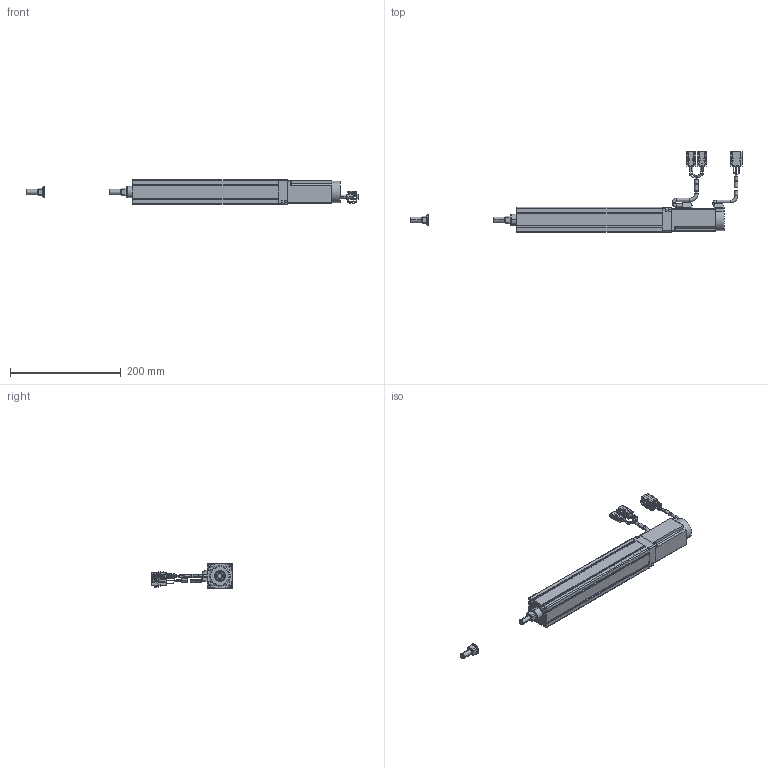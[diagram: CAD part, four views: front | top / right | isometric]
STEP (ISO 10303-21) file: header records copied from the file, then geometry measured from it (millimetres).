
FILE_DESCRIPTION((''),'2;1');
FILE_NAME('BET4D-ST-C_B-15_IGS_PRT','2017-06-18T',(' '),(''),'PRO/ENGINEER BY PARAMETRIC TECHNOLOGY CORPORATION, 2015030','PRO/ENGINEER BY PARAMETRIC TECHNOLOGY CORPORATION, 2015030','');
FILE_SCHEMA(('CONFIG_CONTROL_DESIGN'));
Length unit declared in the file: millimetre
Products named in the file (1): BET4D-ST-C_B-15_IGS_PRT
Bounding box: 599 x 145.7 x 45 mm (x, y, z)
Volume: 553117.2 mm3; surface area: 176037.6 mm2
Topology: 6 solids, 30 shells, 942 faces, 2479 edges, 1603 vertices
Faces by surface type: plane 618, cylinder 234, torus 68, cone 18, sphere 4
Entity records: 29264 total; most frequent: CARTESIAN_POINT 5472, DIRECTION 4921, ORIENTED_EDGE 4890, EDGE_CURVE 2473, VECTOR 1781, LINE 1781, VERTEX_POINT 1603, AXIS2_PLACEMENT_3D 1570
